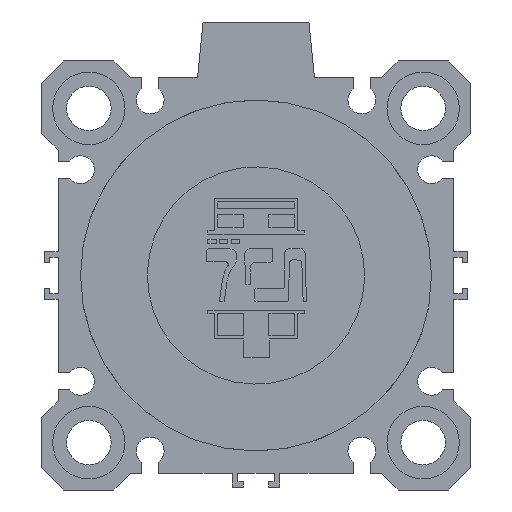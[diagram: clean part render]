
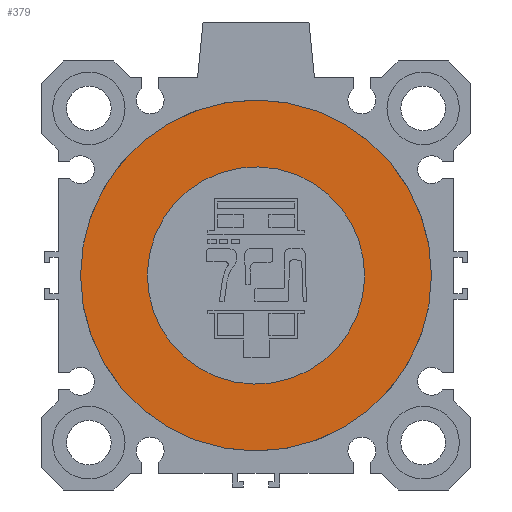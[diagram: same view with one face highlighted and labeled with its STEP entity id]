
A CAD part, left-side view. The second image highlights one B-rep face of the part: STEP entity #379.
In plain terms, the highlighted planar face has unit normal (-1, 0, 0).
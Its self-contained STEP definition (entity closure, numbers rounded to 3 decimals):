
#297=CARTESIAN_POINT('Vertex',(5.,9.349,17.113)) ;
#300=CARTESIAN_POINT('Axis2P3D Location',(5.,0.,0.)) ;
#304=CARTESIAN_POINT('Vertex',(5.,-9.349,-17.113)) ;
#324=CARTESIAN_POINT('Axis2P3D Location',(5.,0.,0.)) ;
#336=CARTESIAN_POINT('Axis2P3D Location',(5.,0.,31.5)) ;
#341=CARTESIAN_POINT('Axis2P3D Location',(5.,0.,0.)) ;
#345=CARTESIAN_POINT('Vertex',(5.,-15.102,-27.644)) ;
#347=CARTESIAN_POINT('Vertex',(5.,-31.5,0.)) ;
#350=CARTESIAN_POINT('Axis2P3D Location',(5.,0.,0.)) ;
#354=CARTESIAN_POINT('Vertex',(5.,15.102,27.644)) ;
#357=CARTESIAN_POINT('Axis2P3D Location',(5.,0.,0.)) ;
#361=CARTESIAN_POINT('Vertex',(5.,31.5,0.)) ;
#364=CARTESIAN_POINT('Axis2P3D Location',(5.,0.,0.)) ;
#301=DIRECTION('Axis2P3D Direction',(-1.,0.,0.)) ;
#325=DIRECTION('Axis2P3D Direction',(-1.,0.,0.)) ;
#337=DIRECTION('Axis2P3D Direction',(-1.,0.,0.)) ;
#338=DIRECTION('Axis2P3D XDirection',(0.,1.,0.)) ;
#342=DIRECTION('Axis2P3D Direction',(-1.,0.,0.)) ;
#351=DIRECTION('Axis2P3D Direction',(-1.,0.,0.)) ;
#358=DIRECTION('Axis2P3D Direction',(-1.,0.,0.)) ;
#365=DIRECTION('Axis2P3D Direction',(-1.,0.,0.)) ;
#302=AXIS2_PLACEMENT_3D('Circle Axis2P3D',#300,#301,$) ;
#326=AXIS2_PLACEMENT_3D('Circle Axis2P3D',#324,#325,$) ;
#339=AXIS2_PLACEMENT_3D('Plane Axis2P3D',#336,#337,#338) ;
#343=AXIS2_PLACEMENT_3D('Circle Axis2P3D',#341,#342,$) ;
#352=AXIS2_PLACEMENT_3D('Circle Axis2P3D',#350,#351,$) ;
#359=AXIS2_PLACEMENT_3D('Circle Axis2P3D',#357,#358,$) ;
#366=AXIS2_PLACEMENT_3D('Circle Axis2P3D',#364,#365,$) ;
#370=ORIENTED_EDGE('',*,*,#349,.T.) ;
#371=ORIENTED_EDGE('',*,*,#356,.T.) ;
#372=ORIENTED_EDGE('',*,*,#363,.T.) ;
#373=ORIENTED_EDGE('',*,*,#368,.T.) ;
#376=ORIENTED_EDGE('',*,*,#306,.F.) ;
#377=ORIENTED_EDGE('',*,*,#328,.F.) ;
#378=FACE_BOUND('',#375,.T.) ;
#379=ADVANCED_FACE('PartBody',(#374,#378),#340,.T.) ;
#303=CIRCLE('generated circle',#302,19.5) ;
#327=CIRCLE('generated circle',#326,19.5) ;
#344=CIRCLE('generated circle',#343,31.5) ;
#353=CIRCLE('generated circle',#352,31.5) ;
#360=CIRCLE('generated circle',#359,31.5) ;
#367=CIRCLE('generated circle',#366,31.5) ;
#306=EDGE_CURVE('',#298,#305,#303,.T.) ;
#328=EDGE_CURVE('',#305,#298,#327,.T.) ;
#349=EDGE_CURVE('',#346,#348,#344,.T.) ;
#356=EDGE_CURVE('',#348,#355,#353,.T.) ;
#363=EDGE_CURVE('',#355,#362,#360,.T.) ;
#368=EDGE_CURVE('',#362,#346,#367,.T.) ;
#369=EDGE_LOOP('',(#370,#371,#372,#373)) ;
#375=EDGE_LOOP('',(#376,#377)) ;
#374=FACE_OUTER_BOUND('',#369,.T.) ;
#340=PLANE('',#339) ;
#298=VERTEX_POINT('',#297) ;
#305=VERTEX_POINT('',#304) ;
#346=VERTEX_POINT('',#345) ;
#348=VERTEX_POINT('',#347) ;
#355=VERTEX_POINT('',#354) ;
#362=VERTEX_POINT('',#361) ;
